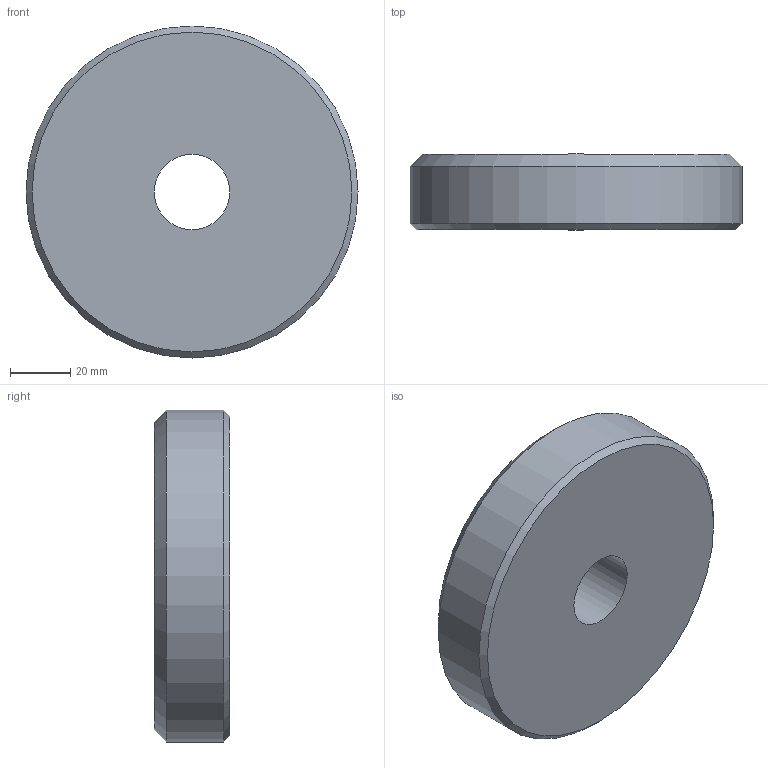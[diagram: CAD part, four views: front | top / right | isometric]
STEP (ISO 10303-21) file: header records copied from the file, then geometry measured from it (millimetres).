
FILE_DESCRIPTION(/* description */ (''),/* implementation_level */ '2;1');
FILE_NAME(/* name */ 'C:\Users\stagistaCAD\Desktop\00\00001220.stp',/* time_stamp */ '2018-06-18T09:08:44+02:00',/* author */ ('stagistacad'),/* organization */ (''),/* preprocessor_version */ 'ST-DEVELOPER v15.6',/* originating_system */ 'Autodesk Inventor 2015',/* authorisation */ '');
FILE_SCHEMA (('AUTOMOTIVE_DESIGN { 1 0 10303 214 3 1 1 }'));
Length unit declared in the file: millimetre
Products named in the file (1): 00001220
Bounding box: 110 x 25 x 110 mm (x, y, z)
Volume: 221930.7 mm3; surface area: 27387.1 mm2
Topology: 1 solids, 1 shells, 6 faces, 10 edges, 6 vertices
Faces by surface type: plane 2, cylinder 2, cone 2
Full cylindrical faces by diameter (mm): 25 x1, 110 x1
Entity records: 152 total; most frequent: DIRECTION 26, CARTESIAN_POINT 19, AXIS2_PLACEMENT_3D 13, EDGE_LOOP 12, ORIENTED_EDGE 12, FACE_BOUND 6, FACE_OUTER_BOUND 6, CIRCLE 6
